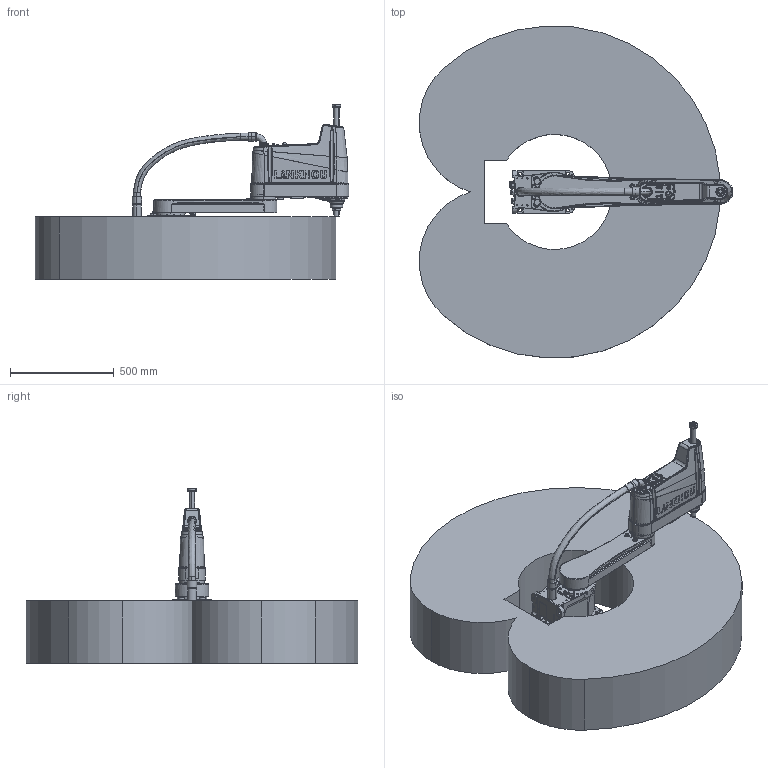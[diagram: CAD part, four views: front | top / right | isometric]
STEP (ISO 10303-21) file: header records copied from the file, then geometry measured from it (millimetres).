
FILE_DESCRIPTION (( 'STEP AP203' ), '1' );
FILE_NAME ('TM10A-R800Z30ÓÐlogo2017.step', '2023-12-22T14:16:46', ( '' ), ( '' ), 'SwSTEP 2.0', 'SolidWorks 2017', '' );
FILE_SCHEMA (( 'CONFIG_CONTROL_DESIGN' ));
Products named in the file (7): ｸｴｼ TM10Aﾐ｡ｱﾛﾓﾐlogo^TM10A-R800Z30ﾓﾐlogo2017; ｸｴｼ TM10A-R800ﾔﾋｶｯｷｶﾎｧﾍｼ^TM10A-R800Z30ﾓﾐlogo2017; ｸｴｼ 25ﾋｿｸﾋ540ﾊﾄ｣ﾍｼ^TM10A-R800Z30ﾓﾐlogo2017; ｸｴｼ TM10A-R800ｴﾛ^TM10A-R800Z30ﾓﾐlogo2017; TM10A-R800Z30ÓÐlogo2017; ¸´¼þ TM10A-R800¹Ü^TM10A-R800Z30ÓÐlogo2017; ｸｴｼ ｸｴｼ ｸｴｼ TM10A-ｵﾗﾗTM10A-R800Z30ﾓﾐlogo2017
Assembly tree (6 placements, depth 2):
  TM10A-R800Z30ÓÐlogo2017
    ｸｴｼ ｸｴｼ ｸｴｼ TM10A-ｵﾗﾗTM10A-R800Z30ﾓﾐlogo2017
    ｸｴｼ TM10A-R800ｴﾛ^TM10A-R800Z30ﾓﾐlogo2017
    ｸｴｼ TM10Aﾐ｡ｱﾛﾓﾐlogo^TM10A-R800Z30ﾓﾐlogo2017
    ｸｴｼ 25ﾋｿｸﾋ540ﾊﾄ｣ﾍｼ^TM10A-R800Z30ﾓﾐlogo2017
    ¸´¼þ TM10A-R800¹Ü^TM10A-R800Z30ÓÐlogo2017
    ｸｴｼ TM10A-R800ﾔﾋｶｯｷｶﾎｧﾍｼ^TM10A-R800Z30ﾓﾐlogo2017
Bounding box: 1510.11 x 1597.97 x 840 mm (x, y, z)
Volume: 500267323.3 mm3; surface area: 7338416.1 mm2
Topology: 42 solids, 50 shells, 3263 faces, 8270 edges, 5221 vertices
Faces by surface type: plane 999, bspline 852, cylinder 836, cone 575, torus 1
Entity records: 192807 total; most frequent: CARTESIAN_POINT 122819, ORIENTED_EDGE 16326, DIRECTION 11377, EDGE_CURVE 8163, VERTEX_POINT 5221, AXIS2_PLACEMENT_3D 4275, EDGE_LOOP 3614, ADVANCED_FACE 3263
